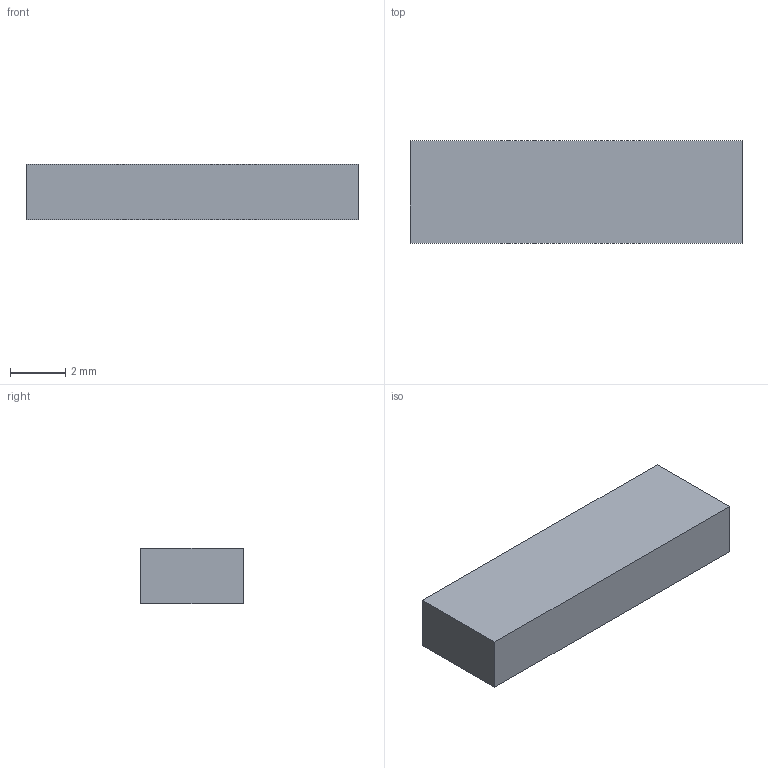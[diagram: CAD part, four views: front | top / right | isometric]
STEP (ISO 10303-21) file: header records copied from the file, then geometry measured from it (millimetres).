
FILE_DESCRIPTION(('Open CASCADE Model'),'2;1');
FILE_NAME('Open CASCADE Shape Model','2026-10-04T02:31:39',('Author'),( 'Open CASCADE'),'Open CASCADE STEP processor 8.0','Open CASCADE 8.0' ,'Unknown');
FILE_SCHEMA(('AUTOMOTIVE_DESIGN { 1 0 10303 214 1 1 1 1 }'));
Length unit declared in the file: millimetre
Products named in the file (1): Open CASCADE STEP translator 8.0 186
Bounding box: 12 x 3.7 x 2 mm (x, y, z)
Volume: 88.8 mm3; surface area: 151.6 mm2
Topology: 1 solids, 1 shells, 6 faces, 12 edges, 8 vertices
Faces by surface type: plane 6
Entity records: 322 total; most frequent: CARTESIAN_POINT 51, DIRECTION 50, LINE 36, VECTOR 36, ORIENTED_EDGE 24, PCURVE 24, DEFINITIONAL_REPRESENTATION 24, EDGE_CURVE 12
